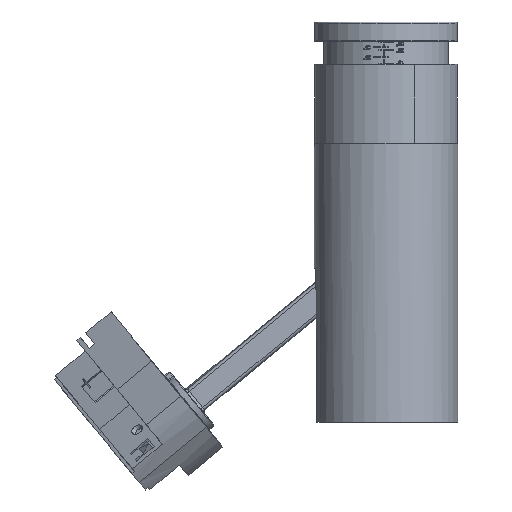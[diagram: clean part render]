
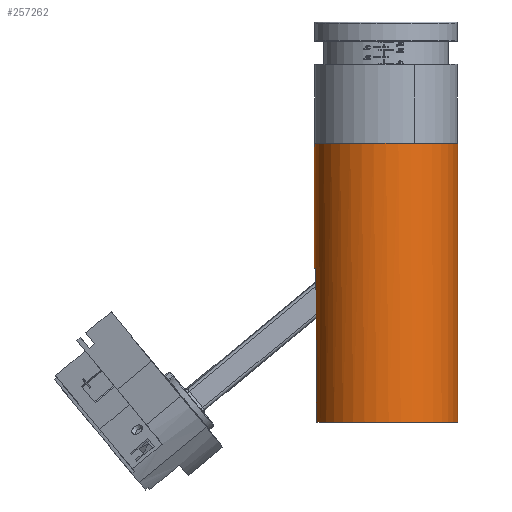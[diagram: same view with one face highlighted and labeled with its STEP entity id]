
A CAD part, left-side view. The second image highlights one B-rep face of the part: STEP entity #257262.
In plain terms, the highlighted cylindrical face has radius 28 mm (diameter 56 mm), a partial arc.
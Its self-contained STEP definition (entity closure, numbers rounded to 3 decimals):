
#5154 = DIRECTION ( 'NONE',  ( 0., 0., 1. ) ) ;
#5707 = DIRECTION ( 'NONE',  ( 0., 0., -1. ) ) ;
#9258 = CARTESIAN_POINT ( 'NONE',  ( 0., -109.592, 0. ) ) ;
#9504 = CARTESIAN_POINT ( 'NONE',  ( -5.696, -59.543, 27.414 ) ) ;
#15087 = CARTESIAN_POINT ( 'NONE',  ( -4.821, -60.531, 27.582 ) ) ;
#19889 = CARTESIAN_POINT ( 'NONE',  ( -5.696, -59.543, 27.414 ) ) ;
#34197 = DIRECTION ( 'NONE',  ( 0., 1., 0. ) ) ;
#35399 = CARTESIAN_POINT ( 'NONE',  ( 0., -60.531, 0. ) ) ;
#39206 = CARTESIAN_POINT ( 'NONE',  ( 0., -60.531, 28. ) ) ;
#39333 = CARTESIAN_POINT ( 'NONE',  ( -5.3, -60.336, 27.494 ) ) ;
#42931 = AXIS2_PLACEMENT_3D ( 'NONE', #210911, #181865, #156463 ) ;
#46339 = EDGE_CURVE ( 'NONE', #175608, #53655, #211889, .T. ) ;
#48778 = LINE ( 'NONE', #162824, #261308 ) ;
#50154 = EDGE_CURVE ( 'NONE', #280188, #354174, #48778, .T. ) ;
#53655 = VERTEX_POINT ( 'NONE', #292749 ) ;
#66054 = EDGE_CURVE ( 'NONE', #280188, #351833, #76032, .T. ) ;
#75670 = CARTESIAN_POINT ( 'NONE',  ( -6.384, -20.157, 27.265 ) ) ;
#76032 = CIRCLE ( 'NONE', #42931, 28. ) ;
#83943 = B_SPLINE_CURVE_WITH_KNOTS ( 'NONE', 3,
 ( #152123, #15087, #263523, #99933, #39333, #178741, #127856, #97573 ),
 .UNSPECIFIED., .F., .F.,
 ( 4, 2, 2, 4 ),
 ( 0., 0., 0.001, 0.002 ),
 .UNSPECIFIED. ) ;
#84524 = ORIENTED_EDGE ( 'NONE', *, *, #66054, .F. ) ;
#86790 = FACE_OUTER_BOUND ( 'NONE', #104123, .T. ) ;
#97573 = CARTESIAN_POINT ( 'NONE',  ( -5.696, -59.543, 27.414 ) ) ;
#99933 = CARTESIAN_POINT ( 'NONE',  ( -5.19, -60.408, 27.515 ) ) ;
#101689 = ORIENTED_EDGE ( 'NONE', *, *, #348840, .T. ) ;
#103559 = CARTESIAN_POINT ( 'NONE',  ( -6.725, -0.592, 27.18 ) ) ;
#104123 = EDGE_LOOP ( 'NONE', ( #187864, #171043, #332037, #101689, #84524, #309358, #225572 ) ) ;
#125239 = AXIS2_PLACEMENT_3D ( 'NONE', #35399, #34197, #5154 ) ;
#127856 = CARTESIAN_POINT ( 'NONE',  ( -5.692, -59.808, 27.415 ) ) ;
#135216 = AXIS2_PLACEMENT_3D ( 'NONE', #9258, #203150, #5707 ) ;
#152123 = CARTESIAN_POINT ( 'NONE',  ( -4.691, -60.531, 27.604 ) ) ;
#154203 = CARTESIAN_POINT ( 'NONE',  ( 0., -0.592, -28. ) ) ;
#155024 = DIRECTION ( 'NONE',  ( 0., -1., 0. ) ) ;
#156350 = CYLINDRICAL_SURFACE ( 'NONE', #239772, 28. ) ;
#156463 = DIRECTION ( 'NONE',  ( 0., 0., -1. ) ) ;
#162824 = CARTESIAN_POINT ( 'NONE',  ( 0., 0.625, -28. ) ) ;
#171043 = ORIENTED_EDGE ( 'NONE', *, *, #301585, .F. ) ;
#171624 = CIRCLE ( 'NONE', #125239, 28. ) ;
#175608 = VERTEX_POINT ( 'NONE', #39206 ) ;
#178741 = CARTESIAN_POINT ( 'NONE',  ( -5.578, -60.065, 27.439 ) ) ;
#181865 = DIRECTION ( 'NONE',  ( 0., 1., 0. ) ) ;
#187864 = ORIENTED_EDGE ( 'NONE', *, *, #46339, .F. ) ;
#199054 = VECTOR ( 'NONE', #155024, 1000. ) ;
#203150 = DIRECTION ( 'NONE',  ( 0., 1., 0. ) ) ;
#210911 = CARTESIAN_POINT ( 'NONE',  ( 0., -0.592, 0. ) ) ;
#211889 = LINE ( 'NONE', #227657, #199054 ) ;
#213795 = CARTESIAN_POINT ( 'NONE',  ( -6.041, -39.81, 27.343 ) ) ;
#215326 = DIRECTION ( 'NONE',  ( 0., 0., -1. ) ) ;
#225572 = ORIENTED_EDGE ( 'NONE', *, *, #344740, .T. ) ;
#227657 = CARTESIAN_POINT ( 'NONE',  ( 0., 0.625, 28. ) ) ;
#239772 = AXIS2_PLACEMENT_3D ( 'NONE', #352389, #354764, #215326 ) ;
#257262 = ADVANCED_FACE ( 'NONE', ( #86790 ), #156350, .T. ) ;
#258825 =( BOUNDED_CURVE ( )  B_SPLINE_CURVE ( 3, ( #19889, #213795, #75670, #103559 ),
 .UNSPECIFIED., .F., .F. ) 
 B_SPLINE_CURVE_WITH_KNOTS ( ( 4, 4 ),
 ( 1.776, 1.813 ),
 .UNSPECIFIED. ) 
 CURVE ( )  GEOMETRIC_REPRESENTATION_ITEM ( )  RATIONAL_B_SPLINE_CURVE ( ( 1., 1., 1., 1. ) ) 
 REPRESENTATION_ITEM ( '' )  );
#259904 = CARTESIAN_POINT ( 'NONE',  ( -6.725, -0.592, 27.18 ) ) ;
#261308 = VECTOR ( 'NONE', #330028, 1000. ) ;
#263523 = CARTESIAN_POINT ( 'NONE',  ( -4.949, -60.506, 27.559 ) ) ;
#276864 = VERTEX_POINT ( 'NONE', #355250 ) ;
#280188 = VERTEX_POINT ( 'NONE', #154203 ) ;
#292749 = CARTESIAN_POINT ( 'NONE',  ( 0., -109.592, 28. ) ) ;
#301585 = EDGE_CURVE ( 'NONE', #276864, #175608, #171624, .T. ) ;
#308891 = EDGE_CURVE ( 'NONE', #276864, #351153, #83943, .T. ) ;
#309358 = ORIENTED_EDGE ( 'NONE', *, *, #50154, .T. ) ;
#320350 = CIRCLE ( 'NONE', #135216, 28. ) ;
#330028 = DIRECTION ( 'NONE',  ( 0., -1., 0. ) ) ;
#332037 = ORIENTED_EDGE ( 'NONE', *, *, #308891, .T. ) ;
#344740 = EDGE_CURVE ( 'NONE', #354174, #53655, #320350, .T. ) ;
#346587 = CARTESIAN_POINT ( 'NONE',  ( 0., -109.592, -28. ) ) ;
#348840 = EDGE_CURVE ( 'NONE', #351153, #351833, #258825, .T. ) ;
#351153 = VERTEX_POINT ( 'NONE', #9504 ) ;
#351833 = VERTEX_POINT ( 'NONE', #259904 ) ;
#352389 = CARTESIAN_POINT ( 'NONE',  ( 0., 0.625, 0. ) ) ;
#354174 = VERTEX_POINT ( 'NONE', #346587 ) ;
#354764 = DIRECTION ( 'NONE',  ( 0., -1., 0. ) ) ;
#355250 = CARTESIAN_POINT ( 'NONE',  ( -4.691, -60.531, 27.604 ) ) ;
